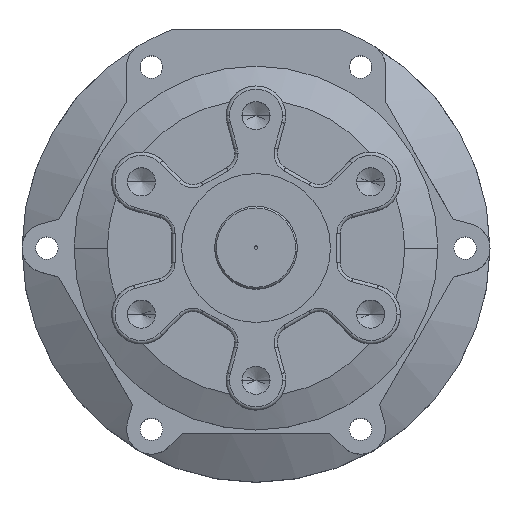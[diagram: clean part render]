
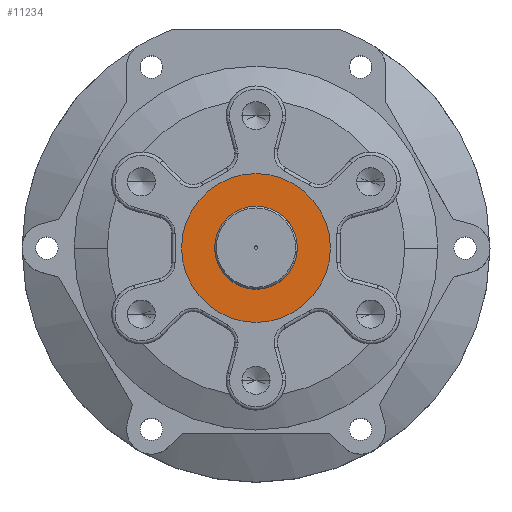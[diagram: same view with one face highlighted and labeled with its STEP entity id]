
A CAD part, top view. The second image highlights one B-rep face of the part: STEP entity #11234.
In plain terms, the highlighted planar face has unit normal (0, 0, 1).
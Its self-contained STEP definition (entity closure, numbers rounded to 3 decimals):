
#270 = CARTESIAN_POINT ( 'NONE',  ( 12.5, 0., 65. ) ) ;
#402 = AXIS2_PLACEMENT_3D ( 'NONE', #12687, #6669, #4255 ) ;
#482 = FACE_OUTER_BOUND ( 'NONE', #5164, .T. ) ;
#1183 = CIRCLE ( 'NONE', #14966, 12.5 ) ;
#1260 = ORIENTED_EDGE ( 'NONE', *, *, #14401, .F. ) ;
#1325 = DIRECTION ( 'NONE',  ( 0., 0., 1. ) ) ;
#1651 = DIRECTION ( 'NONE',  ( 1., 0., 0. ) ) ;
#1788 = CIRCLE ( 'NONE', #13825, 22.5 ) ;
#1811 = AXIS2_PLACEMENT_3D ( 'NONE', #6219, #1325, #9966 ) ;
#2464 = PLANE ( 'NONE',  #1811 ) ;
#3434 = CARTESIAN_POINT ( 'NONE',  ( 0., 0., 65. ) ) ;
#3590 = CARTESIAN_POINT ( 'NONE',  ( -12.5, 0., 65. ) ) ;
#4255 = DIRECTION ( 'NONE',  ( 1., 0., 0. ) ) ;
#4413 = ORIENTED_EDGE ( 'NONE', *, *, #6898, .F. ) ;
#5164 = EDGE_LOOP ( 'NONE', ( #9725, #5686 ) ) ;
#5686 = ORIENTED_EDGE ( 'NONE', *, *, #9281, .T. ) ;
#6219 = CARTESIAN_POINT ( 'NONE',  ( 0., 0., 65. ) ) ;
#6655 = EDGE_CURVE ( 'NONE', #14222, #15733, #1788, .T. ) ;
#6669 = DIRECTION ( 'NONE',  ( 0., 0., 1. ) ) ;
#6778 = VERTEX_POINT ( 'NONE', #270 ) ;
#6885 = DIRECTION ( 'NONE',  ( 1., 0., 0. ) ) ;
#6898 = EDGE_CURVE ( 'NONE', #6778, #13041, #14409, .T. ) ;
#8132 = AXIS2_PLACEMENT_3D ( 'NONE', #14326, #12037, #6885 ) ;
#8236 = CARTESIAN_POINT ( 'NONE',  ( -22.5, 0., 65. ) ) ;
#9281 = EDGE_CURVE ( 'NONE', #15733, #14222, #15291, .T. ) ;
#9725 = ORIENTED_EDGE ( 'NONE', *, *, #6655, .T. ) ;
#9966 = DIRECTION ( 'NONE',  ( 1., 0., 0. ) ) ;
#10133 = CARTESIAN_POINT ( 'NONE',  ( 0., 0., 65. ) ) ;
#10301 = EDGE_LOOP ( 'NONE', ( #4413, #1260 ) ) ;
#11234 = ADVANCED_FACE ( 'NONE', ( #13497, #482 ), #2464, .T. ) ;
#12037 = DIRECTION ( 'NONE',  ( 0., 0., 1. ) ) ;
#12687 = CARTESIAN_POINT ( 'NONE',  ( 0., 0., 65. ) ) ;
#13041 = VERTEX_POINT ( 'NONE', #3590 ) ;
#13130 = CARTESIAN_POINT ( 'NONE',  ( 22.5, 0., 65. ) ) ;
#13497 = FACE_BOUND ( 'NONE', #10301, .T. ) ;
#13563 = DIRECTION ( 'NONE',  ( 1., 0., 0. ) ) ;
#13825 = AXIS2_PLACEMENT_3D ( 'NONE', #3434, #14599, #13563 ) ;
#14222 = VERTEX_POINT ( 'NONE', #8236 ) ;
#14326 = CARTESIAN_POINT ( 'NONE',  ( 0., 0., 65. ) ) ;
#14359 = DIRECTION ( 'NONE',  ( 0., 0., 1. ) ) ;
#14401 = EDGE_CURVE ( 'NONE', #13041, #6778, #1183, .T. ) ;
#14409 = CIRCLE ( 'NONE', #402, 12.5 ) ;
#14599 = DIRECTION ( 'NONE',  ( 0., 0., 1. ) ) ;
#14966 = AXIS2_PLACEMENT_3D ( 'NONE', #10133, #14359, #1651 ) ;
#15291 = CIRCLE ( 'NONE', #8132, 22.5 ) ;
#15733 = VERTEX_POINT ( 'NONE', #13130 ) ;
